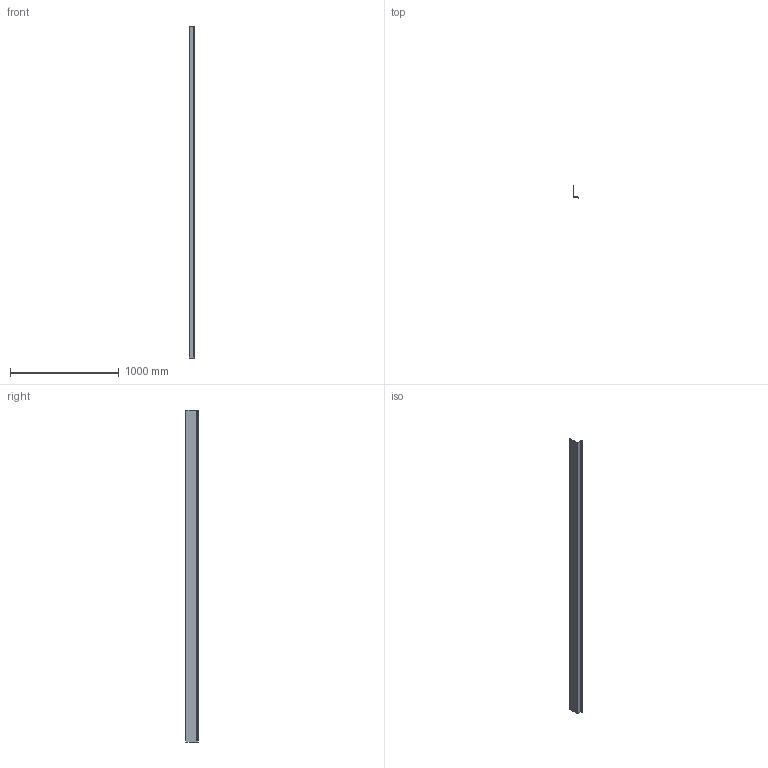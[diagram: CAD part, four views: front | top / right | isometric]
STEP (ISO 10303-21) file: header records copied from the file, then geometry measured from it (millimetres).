
FILE_DESCRIPTION (( 'STEP AP203' ), '1' );
FILE_NAME ('M50F.STEP', '2018-06-18T19:20:34', ( 'Michael Moliner' ), ( '' ), 'SwSTEP 2.0', 'SolidWorks 2018', '' );
FILE_SCHEMA (( 'CONFIG_CONTROL_DESIGN' ));
Length unit declared in the file: inch
Products named in the file (2): M50F
Bounding box: 53.07 x 113.87 x 3048 mm (x, y, z)
Volume: 266517.4 mm3; surface area: 1052552.6 mm2
Topology: 1 solids, 1 shells, 18 faces, 48 edges, 32 vertices
Faces by surface type: plane 12, cylinder 6
Entity records: 721 total; most frequent: CARTESIAN_POINT 100, DIRECTION 100, ORIENTED_EDGE 96, EDGE_CURVE 48, LINE 36, VECTOR 36, AXIS2_PLACEMENT_3D 32, VERTEX_POINT 32
